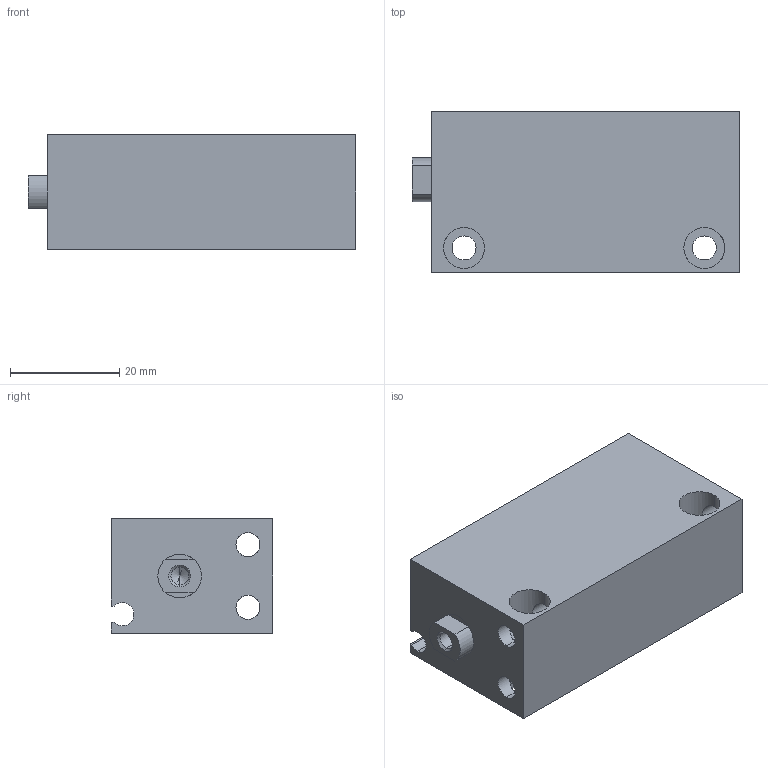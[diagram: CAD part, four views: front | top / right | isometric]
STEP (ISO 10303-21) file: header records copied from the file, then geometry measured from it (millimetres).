
FILE_DESCRIPTION (( 'STEP AP203' ), '1' );
FILE_NAME ('CLJB16-40.STEP', '2020-07-30T19:24:32', ( '' ), ( '' ), 'SwSTEP 2.0', 'SolidWorks 2019', '' );
FILE_SCHEMA (( 'CONFIG_CONTROL_DESIGN' ));
Length unit declared in the file: millimetre
Products named in the file (1): CLJB16-40
Bounding box: 60 x 29.5 x 21 mm (x, y, z)
Volume: 25469.7 mm3; surface area: 13649.9 mm2
Topology: 2 solids, 2 shells, 75 faces, 188 edges, 113 vertices
Faces by surface type: cylinder 41, plane 22, cone 12
Entity records: 3119 total; most frequent: CARTESIAN_POINT 1223, DIRECTION 394, ORIENTED_EDGE 364, EDGE_CURVE 182, AXIS2_PLACEMENT_3D 152, VERTEX_POINT 113, EDGE_LOOP 93, LINE 90
